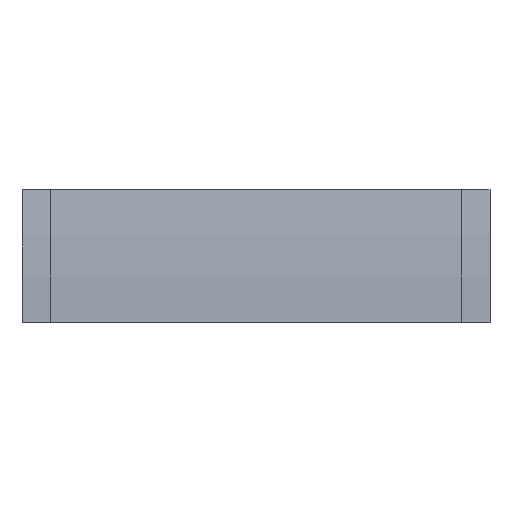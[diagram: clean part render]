
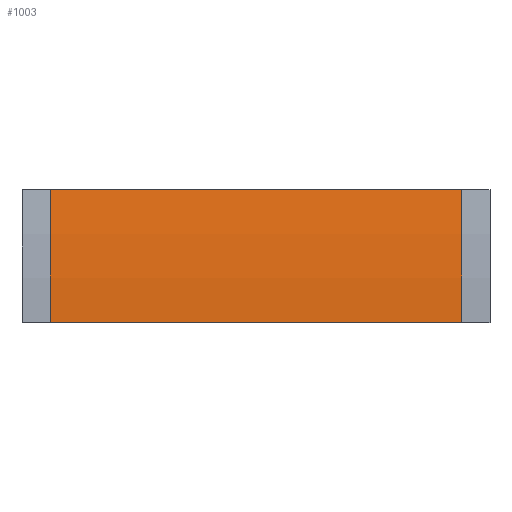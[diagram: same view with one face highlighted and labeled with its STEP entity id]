
A CAD part, front view. The second image highlights one B-rep face of the part: STEP entity #1003.
In plain terms, the highlighted cylindrical face has radius 568 mm (diameter 1136 mm), a partial arc.
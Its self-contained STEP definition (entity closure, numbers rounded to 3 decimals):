
#16 = AXIS2_PLACEMENT_3D ( 'NONE', #624, #707, #639 ) ;
#72 = AXIS2_PLACEMENT_3D ( 'NONE', #830, #828, #825 ) ;
#73 = AXIS2_PLACEMENT_3D ( 'NONE', #843, #842, #841 ) ;
#210 = VECTOR ( 'NONE', #812, 1000. ) ;
#212 = VECTOR ( 'NONE', #832, 1000. ) ;
#213 = LINE ( 'NONE', #815, #210 ) ;
#215 = LINE ( 'NONE', #824, #212 ) ;
#217 = CIRCLE ( 'NONE', #72, 568. ) ;
#222 = CIRCLE ( 'NONE', #73, 568. ) ;
#258 = CYLINDRICAL_SURFACE ( 'NONE', #16, 568. ) ;
#260 = FACE_OUTER_BOUND ( 'NONE', #498, .T. ) ;
#295 = ORIENTED_EDGE ( 'NONE', *, *, #903, .F. ) ;
#296 = ORIENTED_EDGE ( 'NONE', *, *, #905, .F. ) ;
#297 = ORIENTED_EDGE ( 'NONE', *, *, #900, .T. ) ;
#298 = ORIENTED_EDGE ( 'NONE', *, *, #906, .T. ) ;
#443 = VERTEX_POINT ( 'NONE', #831 ) ;
#445 = VERTEX_POINT ( 'NONE', #827 ) ;
#450 = VERTEX_POINT ( 'NONE', #817 ) ;
#452 = VERTEX_POINT ( 'NONE', #814 ) ;
#498 = EDGE_LOOP ( 'NONE', ( #295, #296, #297, #298 ) ) ;
#624 = CARTESIAN_POINT ( 'NONE',  ( 0., 500., 0. ) ) ;
#639 = DIRECTION ( 'NONE',  ( 0., 0., -1. ) ) ;
#707 = DIRECTION ( 'NONE',  ( 1., 0., 0. ) ) ;
#812 = DIRECTION ( 'NONE',  ( 1., 0., 0. ) ) ;
#814 = CARTESIAN_POINT ( 'NONE',  ( 152., -59.371, 98.632 ) ) ;
#815 = CARTESIAN_POINT ( 'NONE',  ( -152., -68., 0. ) ) ;
#817 = CARTESIAN_POINT ( 'NONE',  ( -152., -59.371, 98.632 ) ) ;
#824 = CARTESIAN_POINT ( 'NONE',  ( -152., -59.371, 98.632 ) ) ;
#825 = DIRECTION ( 'NONE',  ( 0., 0., -1. ) ) ;
#827 = CARTESIAN_POINT ( 'NONE',  ( 152., -68., 0. ) ) ;
#828 = DIRECTION ( 'NONE',  ( 1., 0., 0. ) ) ;
#830 = CARTESIAN_POINT ( 'NONE',  ( 152., 500., 0. ) ) ;
#831 = CARTESIAN_POINT ( 'NONE',  ( -152., -68., 0. ) ) ;
#832 = DIRECTION ( 'NONE',  ( 1., 0., 0. ) ) ;
#841 = DIRECTION ( 'NONE',  ( 0., 0., -1. ) ) ;
#842 = DIRECTION ( 'NONE',  ( 1., 0., 0. ) ) ;
#843 = CARTESIAN_POINT ( 'NONE',  ( -152., 500., 0. ) ) ;
#900 = EDGE_CURVE ( 'NONE', #450, #443, #222, .T. ) ;
#903 = EDGE_CURVE ( 'NONE', #452, #445, #217, .T. ) ;
#905 = EDGE_CURVE ( 'NONE', #450, #452, #215, .T. ) ;
#906 = EDGE_CURVE ( 'NONE', #443, #445, #213, .T. ) ;
#1003 = ADVANCED_FACE ( 'NONE', ( #260 ), #258, .T. ) ;
